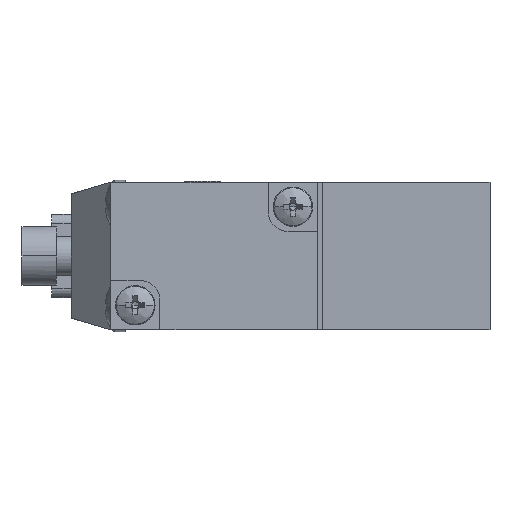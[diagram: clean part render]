
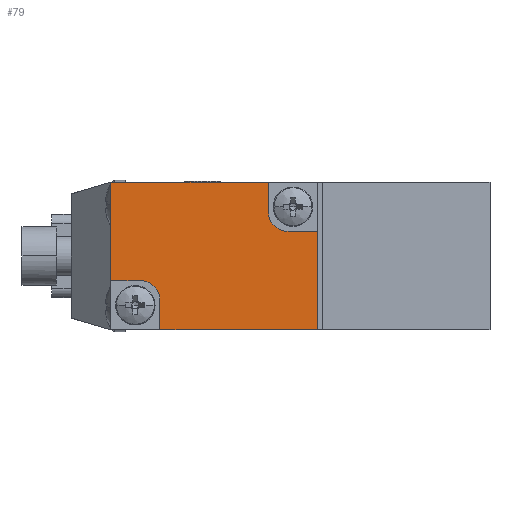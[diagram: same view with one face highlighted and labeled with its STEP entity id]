
A CAD part, left-side view. The second image highlights one B-rep face of the part: STEP entity #79.
In plain terms, the highlighted planar face has unit normal (-1, 0, 0).
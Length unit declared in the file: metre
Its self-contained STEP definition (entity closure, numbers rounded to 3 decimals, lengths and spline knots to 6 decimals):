
#79 = ADVANCED_FACE ( 'NONE', ( #8054 ), #8552, .F. ) ;
#215 = DIRECTION ( 'NONE',  ( 0., 0., -1. ) ) ;
#793 = DIRECTION ( 'NONE',  ( 0., 0., 1. ) ) ;
#813 = CARTESIAN_POINT ( 'NONE',  ( -0.009, 0.016, -0.0075 ) ) ;
#893 = EDGE_CURVE ( 'NONE', #8783, #6086, #4041, .T. ) ;
#985 = EDGE_LOOP ( 'NONE', ( #10284, #4368, #4998, #10013, #4107, #6789, #7310, #3440, #8113, #6924 ) ) ;
#1117 = VECTOR ( 'NONE', #8617, 1. ) ;
#1133 = VECTOR ( 'NONE', #9317, 1. ) ;
#1445 = VERTEX_POINT ( 'NONE', #1872 ) ;
#1610 = VECTOR ( 'NONE', #4484, 1. ) ;
#1872 = CARTESIAN_POINT ( 'NONE',  ( -0.009, 0.016, -0.0045 ) ) ;
#2219 = AXIS2_PLACEMENT_3D ( 'NONE', #10373, #5320, #215 ) ;
#2232 = EDGE_CURVE ( 'NONE', #10396, #9357, #2565, .T. ) ;
#2308 = VERTEX_POINT ( 'NONE', #8156 ) ;
#2450 = VERTEX_POINT ( 'NONE', #9891 ) ;
#2497 = LINE ( 'NONE', #4342, #4463 ) ;
#2565 = LINE ( 'NONE', #7548, #9249 ) ;
#2800 = EDGE_CURVE ( 'NONE', #9357, #1445, #3268, .T. ) ;
#3268 = LINE ( 'NONE', #8895, #5208 ) ;
#3440 = ORIENTED_EDGE ( 'NONE', *, *, #2800, .F. ) ;
#3503 = CARTESIAN_POINT ( 'NONE',  ( -0.009, 0.018, -0.0045 ) ) ;
#3621 = VECTOR ( 'NONE', #793, 1. ) ;
#3649 = CARTESIAN_POINT ( 'NONE',  ( -0.009, 0.0105, -0.0025 ) ) ;
#3856 = DIRECTION ( 'NONE',  ( 0., 1., 0. ) ) ;
#3904 = CIRCLE ( 'NONE', #2219, 0.002 ) ;
#3963 = DIRECTION ( 'NONE',  ( 0., 0., 1. ) ) ;
#4041 = LINE ( 'NONE', #5496, #10468 ) ;
#4107 = ORIENTED_EDGE ( 'NONE', *, *, #893, .T. ) ;
#4158 = LINE ( 'NONE', #3649, #1610 ) ;
#4280 = VERTEX_POINT ( 'NONE', #7143 ) ;
#4342 = CARTESIAN_POINT ( 'NONE',  ( -0.009, 0.005, 0.006 ) ) ;
#4350 = DIRECTION ( 'NONE',  ( 0., 0., -1. ) ) ;
#4368 = ORIENTED_EDGE ( 'NONE', *, *, #4680, .F. ) ;
#4463 = VECTOR ( 'NONE', #3963, 1. ) ;
#4484 = DIRECTION ( 'NONE',  ( 0., 1., 0. ) ) ;
#4680 = EDGE_CURVE ( 'NONE', #4280, #7880, #3904, .T. ) ;
#4689 = EDGE_CURVE ( 'NONE', #8836, #6086, #4158, .T. ) ;
#4998 = ORIENTED_EDGE ( 'NONE', *, *, #7565, .T. ) ;
#5104 = CARTESIAN_POINT ( 'NONE',  ( -0.009, 0., 0. ) ) ;
#5208 = VECTOR ( 'NONE', #8250, 1. ) ;
#5320 = DIRECTION ( 'NONE',  ( -1., 0., 0. ) ) ;
#5474 = DIRECTION ( 'NONE',  ( 0., 0., -1. ) ) ;
#5496 = CARTESIAN_POINT ( 'NONE',  ( -0.009, 0.021, 0. ) ) ;
#5543 = CARTESIAN_POINT ( 'NONE',  ( -0.009, 0.003, 0.0025 ) ) ;
#6086 = VERTEX_POINT ( 'NONE', #6959 ) ;
#6674 = CARTESIAN_POINT ( 'NONE',  ( -0.009, 0., -0.0075 ) ) ;
#6789 = ORIENTED_EDGE ( 'NONE', *, *, #4689, .F. ) ;
#6924 = ORIENTED_EDGE ( 'NONE', *, *, #10474, .T. ) ;
#6959 = CARTESIAN_POINT ( 'NONE',  ( -0.009, 0.021, -0.0025 ) ) ;
#7143 = CARTESIAN_POINT ( 'NONE',  ( -0.009, 0.005, 0.0045 ) ) ;
#7310 = ORIENTED_EDGE ( 'NONE', *, *, #10495, .F. ) ;
#7535 = LINE ( 'NONE', #8573, #1117 ) ;
#7548 = CARTESIAN_POINT ( 'NONE',  ( -0.009, 0.0105, -0.0075 ) ) ;
#7565 = EDGE_CURVE ( 'NONE', #4280, #2450, #2497, .T. ) ;
#7641 = CARTESIAN_POINT ( 'NONE',  ( -0.009, 0.018, -0.0025 ) ) ;
#7664 = EDGE_CURVE ( 'NONE', #2308, #7880, #7801, .T. ) ;
#7801 = LINE ( 'NONE', #8678, #1133 ) ;
#7880 = VERTEX_POINT ( 'NONE', #5543 ) ;
#8054 = FACE_OUTER_BOUND ( 'NONE', #985, .T. ) ;
#8113 = ORIENTED_EDGE ( 'NONE', *, *, #2232, .F. ) ;
#8156 = CARTESIAN_POINT ( 'NONE',  ( -0.009, 0., 0.0025 ) ) ;
#8250 = DIRECTION ( 'NONE',  ( 0., 0., 1. ) ) ;
#8298 = EDGE_CURVE ( 'NONE', #2450, #8783, #7535, .T. ) ;
#8486 = CARTESIAN_POINT ( 'NONE',  ( -0.009, 0.021, 0.0075 ) ) ;
#8494 = CARTESIAN_POINT ( 'NONE',  ( -0.009, 0., 0.0075 ) ) ;
#8552 = PLANE ( 'NONE',  #10361 ) ;
#8573 = CARTESIAN_POINT ( 'NONE',  ( -0.009, 0.0105, 0.0075 ) ) ;
#8617 = DIRECTION ( 'NONE',  ( 0., 1., 0. ) ) ;
#8620 = DIRECTION ( 'NONE',  ( 0., 0., -1. ) ) ;
#8678 = CARTESIAN_POINT ( 'NONE',  ( -0.009, 0.0015, 0.0025 ) ) ;
#8783 = VERTEX_POINT ( 'NONE', #8486 ) ;
#8836 = VERTEX_POINT ( 'NONE', #7641 ) ;
#8895 = CARTESIAN_POINT ( 'NONE',  ( -0.009, 0.016, 0. ) ) ;
#9110 = AXIS2_PLACEMENT_3D ( 'NONE', #3503, #9358, #4350 ) ;
#9249 = VECTOR ( 'NONE', #3856, 1. ) ;
#9317 = DIRECTION ( 'NONE',  ( 0., 1., 0. ) ) ;
#9357 = VERTEX_POINT ( 'NONE', #813 ) ;
#9358 = DIRECTION ( 'NONE',  ( -1., 0., 0. ) ) ;
#9891 = CARTESIAN_POINT ( 'NONE',  ( -0.009, 0.005, 0.0075 ) ) ;
#10013 = ORIENTED_EDGE ( 'NONE', *, *, #8298, .T. ) ;
#10065 = CIRCLE ( 'NONE', #9110, 0.002 ) ;
#10213 = DIRECTION ( 'NONE',  ( 1., 0., 0. ) ) ;
#10284 = ORIENTED_EDGE ( 'NONE', *, *, #7664, .T. ) ;
#10361 = AXIS2_PLACEMENT_3D ( 'NONE', #8494, #10213, #8620 ) ;
#10373 = CARTESIAN_POINT ( 'NONE',  ( -0.009, 0.003, 0.0045 ) ) ;
#10396 = VERTEX_POINT ( 'NONE', #6674 ) ;
#10468 = VECTOR ( 'NONE', #5474, 1. ) ;
#10474 = EDGE_CURVE ( 'NONE', #10396, #2308, #10588, .T. ) ;
#10495 = EDGE_CURVE ( 'NONE', #1445, #8836, #10065, .T. ) ;
#10588 = LINE ( 'NONE', #5104, #3621 ) ;
